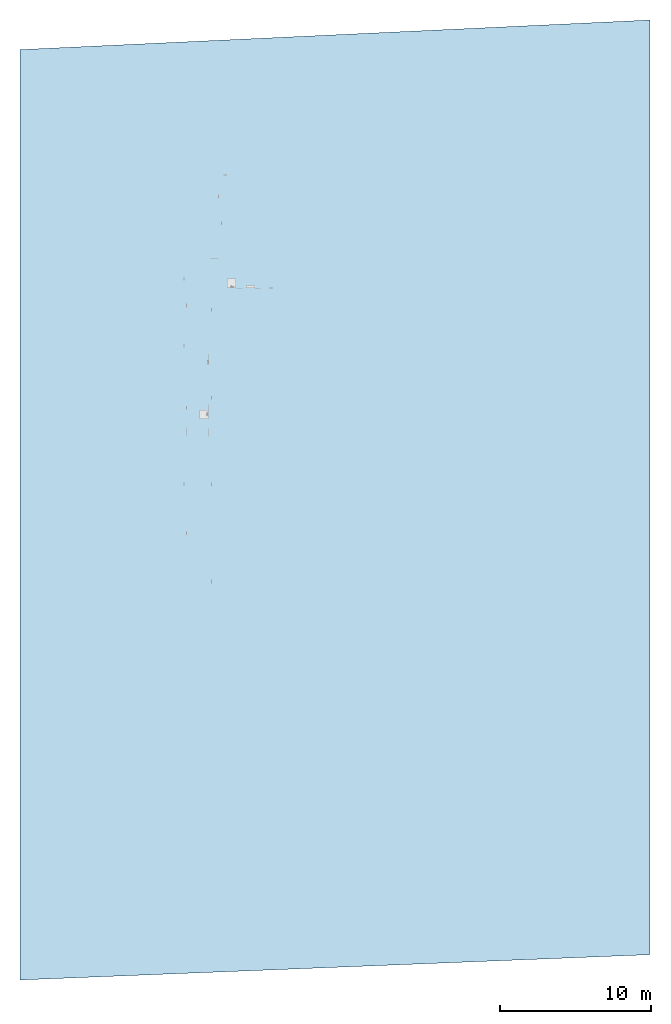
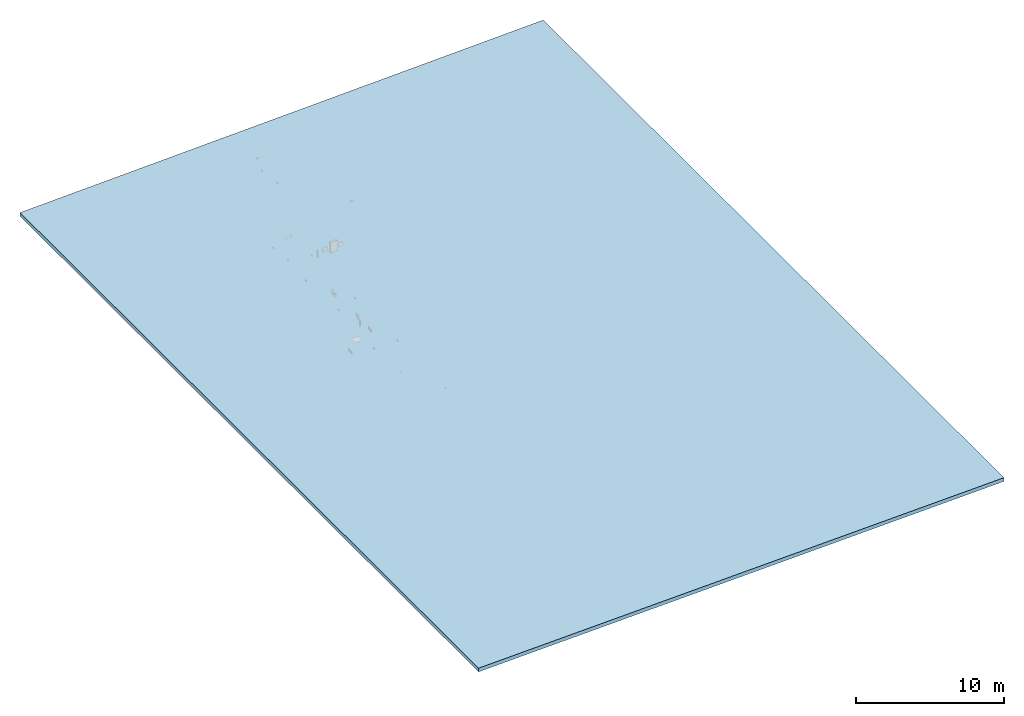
# One storey, part 1 of 6: 1 slab.
"""IFC2X3 building model written with IfcOpenShell, lengths in metres."""

import ifcopenshell
import ifcopenshell.guid

model = None  # the IFC model being written
_history = None  # IfcOwnerHistory: only IFC2X3 demands one
_inside = {}  # id of a spatial element -> (the spatial element, [elements in it])
_under = {}  # id of a project, library or spatial element -> (it, [spatial elements below it])
_declared = {}  # id of a project -> (the project, [libraries it declares])
_typed = {}  # id of a type object -> (the type object, [elements of that type])
_made_of = {}  # id of a material, layer set ... -> (it, [elements and type objects made of it])


def new_model(schema):
    """Start an empty IFC model of exactly this schema.

    Asked for "IFC4X3", IfcOpenShell would pick the latest addendum, in which some entities
    have other attributes; the version numbers below select the first issue.
    IFC2X3 requires an IfcOwnerHistory on every rooted entity: one is made here for all.
    """
    global model, _history
    if schema == "IFC4X3":
        model = ifcopenshell.file(schema_version=(4, 3, 0, 0))
    else:
        model = ifcopenshell.file(schema=schema)
    _inside.clear()
    _under.clear()
    _declared.clear()
    _typed.clear()
    _made_of.clear()
    _history = None
    if model.schema == "IFC2X3":
        org = make("IfcOrganization", Name="unknown")
        user = make(
            "IfcPersonAndOrganization",
            ThePerson=make("IfcPerson", FamilyName="unknown"),
            TheOrganization=org,
        )
        app = make(
            "IfcApplication",
            ApplicationDeveloper=org,
            Version="unknown",
            ApplicationFullName="unknown",
            ApplicationIdentifier="unknown",
        )
        _history = make(
            "IfcOwnerHistory",
            OwningUser=user,
            OwningApplication=app,
            ChangeAction="ADDED",
            CreationDate=0,
        )
    return model


def make(cls, **values):
    """One entity of the class cls with the attributes given. An attribute that is None is left unset."""
    return model.create_entity(
        cls, **{name: value for name, value in values.items() if value is not None}
    )


def entity(cls, *values):
    """Any entity or typed value of the class cls, its attributes in the order of the schema. None: left unset."""
    e = model.create_entity(cls)
    for i, value in enumerate(values):
        if value is not None:
            e[i] = value
    return e


def rooted(cls, **values):
    """An entity with a GlobalId (a new one), such as an element, a storey or a relation."""
    return make(cls, GlobalId=ifcopenshell.guid.new(), OwnerHistory=_history, **values)


def si_unit(unit_type, name, prefix=None):
    """IfcSIUnit, for example si_unit("LENGTHUNIT", "METRE", prefix="MILLI")."""
    return make("IfcSIUnit", UnitType=unit_type, Prefix=prefix, Name=name)


def converted_unit(unit_type, name, factor, base, dimensions=None, offset=None):
    """IfcConversionBasedUnit, such as the inch: factor (a typed value) times the base unit."""
    return make(
        "IfcConversionBasedUnit"
        if offset is None
        else "IfcConversionBasedUnitWithOffset",
        ConversionOffset=offset,
        Dimensions=None
        if dimensions is None
        else entity("IfcDimensionalExponents", *dimensions),
        UnitType=unit_type,
        Name=name,
        ConversionFactor=make(
            "IfcMeasureWithUnit", ValueComponent=factor, UnitComponent=base
        ),
    )


def derived_unit(unit_type, elements):
    """IfcDerivedUnit: a product of units, each with its exponent."""
    return make(
        "IfcDerivedUnit",
        Elements=[
            make("IfcDerivedUnitElement", Unit=unit, Exponent=power)
            for unit, power in elements
        ],
        UnitType=unit_type,
    )


def assignment(units):
    """IfcUnitAssignment: the units of a project."""
    return None if units is None else make("IfcUnitAssignment", Units=units)


def point(xyz):
    """IfcCartesianPoint."""
    return None if xyz is None else make("IfcCartesianPoint", Coordinates=xyz)


def direction(xyz):
    """IfcDirection."""
    return None if xyz is None else make("IfcDirection", DirectionRatios=xyz)


def frame(location, z_axis=None, x_axis=None):
    """IfcAxis2Placement3D, a coordinate frame: its origin and axes. An axis left out is left unset."""
    return make(
        "IfcAxis2Placement3D",
        Location=point(location),
        Axis=direction(z_axis),
        RefDirection=direction(x_axis),
    )


def origin():
    """The frame at (0, 0, 0) with its axes left unset."""
    return frame((0.0, 0.0, 0.0))


def place(relative_to, where):
    """IfcLocalPlacement: puts the frame where relative to a parent placement (None: the world)."""
    return make(
        "IfcLocalPlacement", PlacementRelTo=relative_to, RelativePlacement=where
    )


def context(
    kind, dimensions, precision=None, world=None, true_north=None, identifier=None
):
    """IfcGeometricRepresentationContext, for example the 3D "Model" context."""
    return make(
        "IfcGeometricRepresentationContext",
        ContextIdentifier=identifier,
        ContextType=kind,
        CoordinateSpaceDimension=dimensions,
        Precision=precision,
        WorldCoordinateSystem=world,
        TrueNorth=true_north,
    )


def subcontext(parent, identifier, kind, view, scale=None):
    """IfcGeometricRepresentationSubContext, for example "Body" below "Model"."""
    return make(
        "IfcGeometricRepresentationSubContext",
        ContextIdentifier=identifier,
        ContextType=kind,
        ParentContext=parent,
        TargetScale=scale,
        TargetView=view,
    )


def project(units=None, contexts=None):
    """IfcProject with its units and contexts."""
    return rooted(
        "IfcProject",
        Name="project",
        RepresentationContexts=contexts,
        UnitsInContext=assignment(units),
    )


def spatial(cls, under=None, at=None, **own):
    """A site, building, storey or space (cls), placed at a placement, below another one or the project."""
    s = rooted(cls, ObjectPlacement=at, **own)
    if under is not None:
        _under.setdefault(under.id(), (under, []))[1].append(s)
    return s


def polyline(points):
    """IfcPolyline through the points."""
    return make("IfcPolyline", Points=[point(p) for p in points])


def outline(outer, holes=None, kind="AREA"):
    """IfcArbitraryClosedProfileDef: a profile drawn as a closed curve; with holes, ...WithVoids."""
    if holes is None:
        return make("IfcArbitraryClosedProfileDef", ProfileType=kind, OuterCurve=outer)
    return make(
        "IfcArbitraryProfileDefWithVoids",
        ProfileType=kind,
        OuterCurve=outer,
        InnerCurves=holes,
    )


def extrude(swept, where, along, depth):
    """IfcExtrudedAreaSolid: the profile swept, set in the frame where, extruded along a direction by depth."""
    return make(
        "IfcExtrudedAreaSolid",
        SweptArea=swept,
        Position=where,
        ExtrudedDirection=direction(along),
        Depth=depth,
    )


def shape(context_of_items, identifier, shape_type, items):
    """IfcShapeRepresentation: the items that make up one representation, for example the "Body"."""
    return make(
        "IfcShapeRepresentation",
        ContextOfItems=context_of_items,
        RepresentationIdentifier=identifier,
        RepresentationType=shape_type,
        Items=items,
    )


def material(Name=None, Category=None):
    """IfcMaterial."""
    return make("IfcMaterial", Name=Name, Category=Category)


def layer(
    of_material, thickness, ventilated=None, Name=None, Category=None, Priority=None
):
    """IfcMaterialLayer: one layer of a wall or slab, of a material (None: an air gap)."""
    return make(
        "IfcMaterialLayer",
        Material=of_material,
        LayerThickness=thickness,
        IsVentilated=ventilated,
        Name=Name,
        Category=Category,
        Priority=Priority,
    )


def layer_set(layers, Name=None):
    """IfcMaterialLayerSet."""
    return make("IfcMaterialLayerSet", MaterialLayers=layers, LayerSetName=Name)


def layer_usage(for_layer_set, set_direction, sense, offset, extent=None):
    """IfcMaterialLayerSetUsage: how a layer set lies in its element."""
    return make(
        "IfcMaterialLayerSetUsage",
        ForLayerSet=for_layer_set,
        LayerSetDirection=set_direction,
        DirectionSense=sense,
        OffsetFromReferenceLine=offset,
        ReferenceExtent=extent,
    )


def made_of(thing, what):
    """Note that an element or type object is made of a material, layer set ...; save() writes the relation."""
    if what is not None:
        _made_of.setdefault(what.id(), (what, []))[1].append(thing)
    return thing


def type_object(cls, material=None, **own):
    """A type object (cls), such as IfcWallType, which elements share."""
    return made_of(rooted(cls, **own), material)


def element(
    cls,
    number,
    at=None,
    inside=None,
    cuts=None,
    type_object=None,
    material=None,
    context=None,
    identifier="Body",
    shape_type=None,
    held_by="IfcProductDefinitionShape",
    body=None,
    shapes=None,
    **own,
):
    """One element of the class cls, such as IfcWall. Its Tag is "e" and its number.

    at: its placement. inside: the storey or other place that contains it. cuts: it is an
    opening in that element (IfcRelVoidsElement). A single representation is given by context,
    identifier, shape_type and body (its items); several are given by shapes. held_by: the class
    of the entity that holds the representations. save() writes the other relations.
    """
    e = rooted(cls, Tag="e%d" % number, ObjectPlacement=at, **own)
    if body is not None:
        shapes = [shape(context, identifier, shape_type, body)]
    if shapes is not None:
        e.Representation = make(held_by, Representations=shapes)
    if inside is not None:
        _inside.setdefault(inside.id(), (inside, []))[1].append(e)
    if cuts is not None:
        rooted(
            "IfcRelVoidsElement", RelatingBuildingElement=cuts, RelatedOpeningElement=e
        )
    if type_object is not None:
        _typed.setdefault(type_object.id(), (type_object, []))[1].append(e)
    return made_of(e, material)


def aggregate(whole, parts):
    """IfcRelAggregates: a whole, such as a stair, and the parts it consists of."""
    return rooted("IfcRelAggregates", RelatingObject=whole, RelatedObjects=parts)


def save(model, path):
    """Write the relations noted so far, then the file.

    IfcRelAggregates (storeys below a building ...), IfcRelContainedInSpatialStructure (elements
    in a storey), IfcRelDefinesByType, IfcRelAssociatesMaterial and IfcRelDeclares: one each for
    every whole, place, type object, material and project.
    """
    for whole, parts in _under.values():
        aggregate(whole, parts)
    for where, things in _inside.values():
        rooted(
            "IfcRelContainedInSpatialStructure",
            RelatedElements=things,
            RelatingStructure=where,
        )
    for kind, things in _typed.values():
        rooted("IfcRelDefinesByType", RelatedObjects=things, RelatingType=kind)
    for what, things in _made_of.values():
        rooted("IfcRelAssociatesMaterial", RelatedObjects=things, RelatingMaterial=what)
    for by, libraries in _declared.values():
        rooted("IfcRelDeclares", RelatingContext=by, RelatedDefinitions=libraries)
    model.write(path)


model = new_model("IFC2X3")

# Units and contexts
model_context = context("Model", 3, precision=1e-05, world=origin(), true_north=direction((6.12303176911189e-17, 1.0)))
body_context = subcontext(model_context, "Body", "Model", "MODEL_VIEW")
ifc_project = project(units=[si_unit("LENGTHUNIT", "METRE"), si_unit("AREAUNIT", "SQUARE_METRE"), si_unit("VOLUMEUNIT", "CUBIC_METRE"), converted_unit("PLANEANGLEUNIT", "DEGREE", entity("IfcRatioMeasure", 0.0174532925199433), si_unit("PLANEANGLEUNIT", "RADIAN"), dimensions=[0, 0, 0, 0, 0, 0, 0]), si_unit("MASSUNIT", "GRAM", prefix="KILO"), derived_unit("MASSDENSITYUNIT", [(si_unit("MASSUNIT", "GRAM", prefix="KILO"), 1), (si_unit("LENGTHUNIT", "METRE"), -3)]), derived_unit("MOMENTOFINERTIAUNIT", [(si_unit("LENGTHUNIT", "METRE"), 4)]), si_unit("TIMEUNIT", "SECOND"), si_unit("FREQUENCYUNIT", "HERTZ"), si_unit("THERMODYNAMICTEMPERATUREUNIT", "DEGREE_CELSIUS"), derived_unit("THERMALTRANSMITTANCEUNIT", [(si_unit("MASSUNIT", "GRAM", prefix="KILO"), 1), (si_unit("THERMODYNAMICTEMPERATUREUNIT", "KELVIN"), -1), (si_unit("TIMEUNIT", "SECOND"), -3)]), derived_unit("VOLUMETRICFLOWRATEUNIT", [(si_unit("LENGTHUNIT", "METRE"), 3), (si_unit("TIMEUNIT", "SECOND"), -1)]), si_unit("ELECTRICCURRENTUNIT", "AMPERE"), si_unit("ELECTRICVOLTAGEUNIT", "VOLT"), si_unit("POWERUNIT", "WATT"), si_unit("FORCEUNIT", "NEWTON", prefix="KILO"), si_unit("ILLUMINANCEUNIT", "LUX"), si_unit("LUMINOUSFLUXUNIT", "LUMEN"), si_unit("LUMINOUSINTENSITYUNIT", "CANDELA"), derived_unit("USERDEFINED", [(si_unit("MASSUNIT", "GRAM", prefix="KILO"), -1), (si_unit("LENGTHUNIT", "METRE"), -2), (si_unit("TIMEUNIT", "SECOND"), 3), (si_unit("LUMINOUSFLUXUNIT", "LUMEN"), 1)]), derived_unit("LINEARVELOCITYUNIT", [(si_unit("LENGTHUNIT", "METRE"), 1), (si_unit("TIMEUNIT", "SECOND"), -1)]), si_unit("PRESSUREUNIT", "PASCAL"), derived_unit("USERDEFINED", [(si_unit("LENGTHUNIT", "METRE"), -2), (si_unit("MASSUNIT", "GRAM", prefix="KILO"), 1), (si_unit("TIMEUNIT", "SECOND"), -2)]), derived_unit("LINEARFORCEUNIT", [(si_unit("MASSUNIT", "GRAM", prefix="KILO"), 1), (si_unit("LENGTHUNIT", "METRE"), 1), (si_unit("TIMEUNIT", "SECOND"), -2), (si_unit("LENGTHUNIT", "METRE"), -1)]), derived_unit("PLANARFORCEUNIT", [(si_unit("MASSUNIT", "GRAM", prefix="KILO"), 1), (si_unit("LENGTHUNIT", "METRE"), 1), (si_unit("TIMEUNIT", "SECOND"), -2), (si_unit("LENGTHUNIT", "METRE"), -2)])], contexts=[model_context])

# Site, building, storey
site_placement = place(None, origin())
site = spatial("IfcSite", under=ifc_project, at=site_placement, Name="Default", CompositionType="ELEMENT")
building_placement = place(site_placement, origin())
building = spatial("IfcBuilding", under=site, at=building_placement, Name="C.L. MONSENHOR ANTÔNIO SAMPAIO", CompositionType="ELEMENT")
storey_placement = place(building_placement, frame((0.0, 0.0, 3.42)))
storey = spatial("IfcBuildingStorey", under=building, at=storey_placement, Name="Planta Baixa - Incêndio - Pav. Sup.", CompositionType="ELEMENT", Elevation=3.42)

# Slab
ifc_material = material(Name="Material pré-definido de piso")
ifc_layer = layer(ifc_material, 0.3)
ifc_layer_set = layer_set([ifc_layer], Name="Piso:Genérico 300 mm")
ifc_layer_usage = layer_usage(ifc_layer_set, "AXIS3", "POSITIVE", 0.0)
slab_type = type_object("IfcSlabType", Name="Piso:Genérico 300 mm", PredefinedType="FLOOR", material=ifc_layer_set)
slab_placement = place(storey_placement, origin())
element("IfcSlab", 1, at=slab_placement, inside=storey, type_object=slab_type, material=ifc_layer_usage, Name="Piso:Genérico 300 mm", ObjectType="Piso:Genérico 300 mm", PredefinedType="FLOOR", context=body_context, shape_type="SweptSolid", body=[
    extrude(outline(polyline([(-31.7927992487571, -20.9129008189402), (29.970316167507, -20.9129008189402), (31.9362421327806, 20.9129008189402), (-30.1137590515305, 20.9129008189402), (-31.7927992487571, -20.9129008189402)])), frame((35.6241614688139, 16.8798712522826, 0.0), z_axis=(0.0, 0.0, -1.0), x_axis=(0.0, 1.0, 0.0)), (0.0, 0.0, 1.0), 0.3),
])

save(model, "model.ifc")
